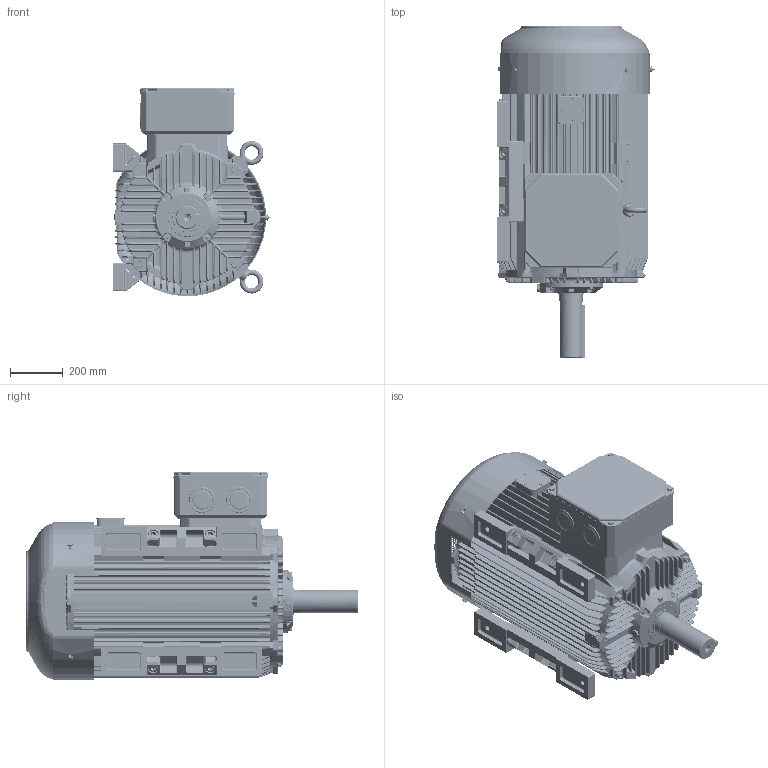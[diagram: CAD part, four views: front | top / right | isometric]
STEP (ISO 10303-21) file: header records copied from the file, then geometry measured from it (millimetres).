
FILE_DESCRIPTION(/* description */ ('Unknown','CAx-IF Rec.Pracs.---Representation and Presentation of Product Manufacturing Information (PMI)---4.0---2014-10-13','CAx-IF Rec.Pracs.---3D Tessellated Geometry---0.4---2014-09-14','2;1'),/* implementation_level */ '2;1');
FILE_NAME(/* name */ 'Silnik SIE447T4A',/* time_stamp */ '2024-07-08T09:48:58+02:00',/* author */ ('Unknown'),/* organization */ ('Unknown'),/* preprocessor_version */ 'ST-DEVELOPER v16.7',/* originating_system */ 'DEX',/* authorisation */ $);
FILE_SCHEMA (('AP242_MANAGED_MODEL_BASED_3D_ENGINEERING_MIM_LF { 1 0 10303 442 20130219 1 4 }'));
Products named in the file (1): Silnik SIE447T4A
Bounding box: 594.9 x 1253.96 x 787.67 mm (x, y, z)
Volume: 156899495.2 mm3; surface area: 12187648 mm2
Topology: 1 solids, 56 shells, 11472 faces, 30047 edges, 18655 vertices
Faces by surface type: plane 6165, cylinder 2526, bspline 1003, torus 1000, cone 443, sphere 335
Full cylindrical faces by diameter (mm): 0.25 x1, 1.6 x2, 2.5 x3, 3 x1, 3.5 x4, 4.2 x2, 4.917 x2, 5 x15, 6 x1, 6.2 x14, 6.466 x8, 6.6 x4, 6.647 x12, 8 x23, 8.376 x4, 8.5 x4, 8.8 x1, 8.917 x4, 9 x12, 9.853 x4, 10 x13, 10.106 x9, 10.5 x4, 12 x12, 13 x8, 13.546 x4, 13.835 x4, 14 x19, 14.63 x4, 16 x7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
Entity records: 481113 total; most frequent: CARTESIAN_POINT 126340, ORIENTED_EDGE 57318, DIRECTION 54221, EDGE_CURVE 28659, AXIS2_PLACEMENT_3D 18360, VERTEX_POINT 18257, LINE 17501, VECTOR 17501
